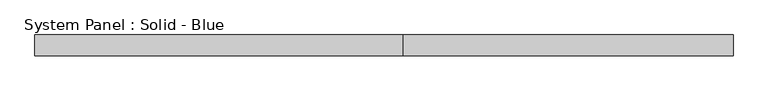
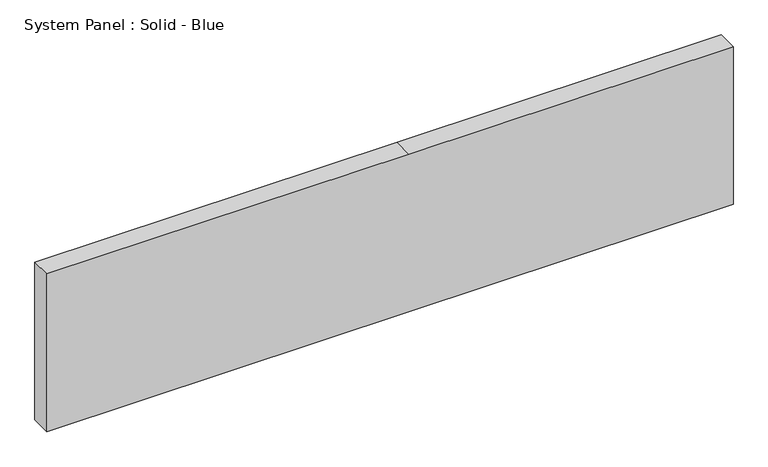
"""IFC4 building model written with IfcOpenShell, lengths in millimetres: plate geometry, System Panel : Solid - Blue."""

from ifc_helpers import new_model, si_unit, frame, origin, place, context, project, spatial, polyline, outline, extrude, source, transform, mapped, element, save


def system_panel_solid_blue_a7f4d1c6(model_context):
    return source(origin(), model_context, "Body", "SweptSolid", [
        extrude(outline(polyline([(0.0, -1058.4447942), (0.0, 58.4864406), (0.0, 1058.4447942), (514.35, 1058.4447942), (514.35, 58.4864406), (514.35, -1058.4447942), (0.0, -1058.4447942)])), frame((0.0, -19.05, 0.0), z_axis=(0.0, 1.0, 0.0), x_axis=(0.0, 0.0, 1.0)), (0.0, 0.0, 1.0), 63.5),
    ])


if __name__ == "__main__":
    model = new_model("IFC4")
    model_context = context("Model", 3, world=origin())
    ifc_project = project(units=[si_unit("LENGTHUNIT", "METRE", prefix="MILLI")], contexts=[model_context])
    site = spatial("IfcSite", under=ifc_project)
    building = spatial("IfcBuilding", under=site)
    placement = place(None, origin())
    system_panel_solid_blue_shape = system_panel_solid_blue_a7f4d1c6(model_context)
    element("IfcPlate", 1, ObjectType="System Panel : Solid - Blue", at=placement, inside=building, context=model_context, shape_type="MappedRepresentation", body=[
        mapped(system_panel_solid_blue_shape, transform((0.0, 0.0, 0.0), x_axis=(1.0, 0.0, 0.0), y_axis=(0.0, 1.0, 0.0), z_axis=(0.0, 0.0, 1.0))),
    ])
    save(model, "model.ifc")
